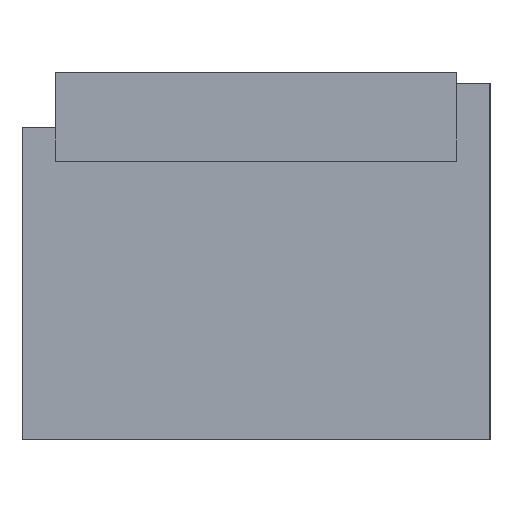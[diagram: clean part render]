
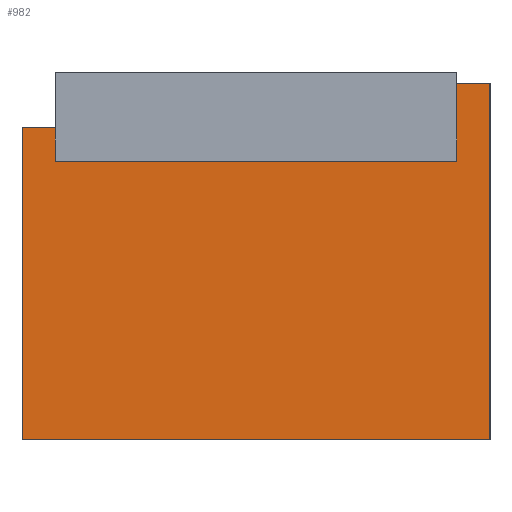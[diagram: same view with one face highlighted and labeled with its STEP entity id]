
A CAD part, left-side view. The second image highlights one B-rep face of the part: STEP entity #982.
In plain terms, the highlighted planar face has unit normal (-1, 0, 0).
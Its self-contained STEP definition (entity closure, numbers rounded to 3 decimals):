
#62 = PLANE('',#63);
#63 = AXIS2_PLACEMENT_3D('',#64,#65,#66);
#64 = CARTESIAN_POINT('',(0.,0.,0.));
#65 = DIRECTION('',(-0.,1.,0.));
#66 = DIRECTION('',(0.,0.,1.));
#90 = PLANE('',#91);
#91 = AXIS2_PLACEMENT_3D('',#92,#93,#94);
#92 = CARTESIAN_POINT('',(0.,-3.,0.));
#93 = DIRECTION('',(0.,0.,1.));
#94 = DIRECTION('',(1.,0.,-0.));
#225 = PLANE('',#226);
#226 = AXIS2_PLACEMENT_3D('',#227,#228,#229);
#227 = CARTESIAN_POINT('',(0.,36.,0.));
#228 = DIRECTION('',(-0.,1.,0.));
#229 = DIRECTION('',(0.,0.,1.));
#323 = VERTEX_POINT('',#324);
#324 = CARTESIAN_POINT('',(0.,0.,0.));
#345 = EDGE_CURVE('',#323,#346,#348,.T.);
#346 = VERTEX_POINT('',#347);
#347 = CARTESIAN_POINT('',(0.,0.,7.));
#348 = SURFACE_CURVE('',#349,(#353,#360),.PCURVE_S1.);
#349 = LINE('',#350,#351);
#350 = CARTESIAN_POINT('',(0.,0.,0.));
#351 = VECTOR('',#352,1.);
#352 = DIRECTION('',(0.,0.,1.));
#353 = PCURVE('',#62,#354);
#354 = DEFINITIONAL_REPRESENTATION('',(#355),#359);
#355 = LINE('',#356,#357);
#356 = CARTESIAN_POINT('',(0.,0.));
#357 = VECTOR('',#358,1.);
#358 = DIRECTION('',(1.,0.));
#359 = ( GEOMETRIC_REPRESENTATION_CONTEXT(2) 
PARAMETRIC_REPRESENTATION_CONTEXT() REPRESENTATION_CONTEXT('2D SPACE',''
  ) );
#360 = PCURVE('',#361,#366);
#361 = PLANE('',#362);
#362 = AXIS2_PLACEMENT_3D('',#363,#364,#365);
#363 = CARTESIAN_POINT('',(0.,36.,0.));
#364 = DIRECTION('',(1.,0.,-0.));
#365 = DIRECTION('',(0.,0.,1.));
#366 = DEFINITIONAL_REPRESENTATION('',(#367),#371);
#367 = LINE('',#368,#369);
#368 = CARTESIAN_POINT('',(0.,36.));
#369 = VECTOR('',#370,1.);
#370 = DIRECTION('',(1.,0.));
#371 = ( GEOMETRIC_REPRESENTATION_CONTEXT(2) 
PARAMETRIC_REPRESENTATION_CONTEXT() REPRESENTATION_CONTEXT('2D SPACE',''
  ) );
#387 = PLANE('',#388);
#388 = AXIS2_PLACEMENT_3D('',#389,#390,#391);
#389 = CARTESIAN_POINT('',(0.,-3.,7.));
#390 = DIRECTION('',(0.,0.,1.));
#391 = DIRECTION('',(1.,0.,-0.));
#529 = VERTEX_POINT('',#530);
#530 = CARTESIAN_POINT('',(0.,36.,0.));
#551 = EDGE_CURVE('',#529,#552,#554,.T.);
#552 = VERTEX_POINT('',#553);
#553 = CARTESIAN_POINT('',(0.,36.,3.));
#554 = SURFACE_CURVE('',#555,(#559,#566),.PCURVE_S1.);
#555 = LINE('',#556,#557);
#556 = CARTESIAN_POINT('',(0.,36.,0.));
#557 = VECTOR('',#558,1.);
#558 = DIRECTION('',(0.,0.,1.));
#559 = PCURVE('',#225,#560);
#560 = DEFINITIONAL_REPRESENTATION('',(#561),#565);
#561 = LINE('',#562,#563);
#562 = CARTESIAN_POINT('',(0.,0.));
#563 = VECTOR('',#564,1.);
#564 = DIRECTION('',(1.,0.));
#565 = ( GEOMETRIC_REPRESENTATION_CONTEXT(2) 
PARAMETRIC_REPRESENTATION_CONTEXT() REPRESENTATION_CONTEXT('2D SPACE',''
  ) );
#566 = PCURVE('',#361,#567);
#567 = DEFINITIONAL_REPRESENTATION('',(#568),#572);
#568 = LINE('',#569,#570);
#569 = CARTESIAN_POINT('',(0.,0.));
#570 = VECTOR('',#571,1.);
#571 = DIRECTION('',(1.,0.));
#572 = ( GEOMETRIC_REPRESENTATION_CONTEXT(2) 
PARAMETRIC_REPRESENTATION_CONTEXT() REPRESENTATION_CONTEXT('2D SPACE',''
  ) );
#588 = PLANE('',#589);
#589 = AXIS2_PLACEMENT_3D('',#590,#591,#592);
#590 = CARTESIAN_POINT('',(0.,36.,3.));
#591 = DIRECTION('',(0.,0.,1.));
#592 = DIRECTION('',(1.,0.,-0.));
#653 = EDGE_CURVE('',#323,#529,#654,.T.);
#654 = SURFACE_CURVE('',#655,(#659,#666),.PCURVE_S1.);
#655 = LINE('',#656,#657);
#656 = CARTESIAN_POINT('',(0.,-3.,0.));
#657 = VECTOR('',#658,1.);
#658 = DIRECTION('',(-0.,1.,0.));
#659 = PCURVE('',#90,#660);
#660 = DEFINITIONAL_REPRESENTATION('',(#661),#665);
#661 = LINE('',#662,#663);
#662 = CARTESIAN_POINT('',(0.,0.));
#663 = VECTOR('',#664,1.);
#664 = DIRECTION('',(0.,1.));
#665 = ( GEOMETRIC_REPRESENTATION_CONTEXT(2) 
PARAMETRIC_REPRESENTATION_CONTEXT() REPRESENTATION_CONTEXT('2D SPACE',''
  ) );
#666 = PCURVE('',#361,#667);
#667 = DEFINITIONAL_REPRESENTATION('',(#668),#672);
#668 = LINE('',#669,#670);
#669 = CARTESIAN_POINT('',(0.,39.));
#670 = VECTOR('',#671,1.);
#671 = DIRECTION('',(0.,-1.));
#672 = ( GEOMETRIC_REPRESENTATION_CONTEXT(2) 
PARAMETRIC_REPRESENTATION_CONTEXT() REPRESENTATION_CONTEXT('2D SPACE',''
  ) );
#909 = EDGE_CURVE('',#910,#346,#912,.T.);
#910 = VERTEX_POINT('',#911);
#911 = CARTESIAN_POINT('',(0.,-3.,7.));
#912 = SURFACE_CURVE('',#913,(#917,#924),.PCURVE_S1.);
#913 = LINE('',#914,#915);
#914 = CARTESIAN_POINT('',(0.,-3.,7.));
#915 = VECTOR('',#916,1.);
#916 = DIRECTION('',(-0.,1.,0.));
#917 = PCURVE('',#387,#918);
#918 = DEFINITIONAL_REPRESENTATION('',(#919),#923);
#919 = LINE('',#920,#921);
#920 = CARTESIAN_POINT('',(0.,0.));
#921 = VECTOR('',#922,1.);
#922 = DIRECTION('',(0.,1.));
#923 = ( GEOMETRIC_REPRESENTATION_CONTEXT(2) 
PARAMETRIC_REPRESENTATION_CONTEXT() REPRESENTATION_CONTEXT('2D SPACE',''
  ) );
#924 = PCURVE('',#361,#925);
#925 = DEFINITIONAL_REPRESENTATION('',(#926),#930);
#926 = LINE('',#927,#928);
#927 = CARTESIAN_POINT('',(7.,39.));
#928 = VECTOR('',#929,1.);
#929 = DIRECTION('',(0.,-1.));
#930 = ( GEOMETRIC_REPRESENTATION_CONTEXT(2) 
PARAMETRIC_REPRESENTATION_CONTEXT() REPRESENTATION_CONTEXT('2D SPACE',''
  ) );
#948 = PLANE('',#949);
#949 = AXIS2_PLACEMENT_3D('',#950,#951,#952);
#950 = CARTESIAN_POINT('',(0.,-3.,0.));
#951 = DIRECTION('',(-0.,1.,0.));
#952 = DIRECTION('',(0.,0.,1.));
#982 = ADVANCED_FACE('',(#983),#361,.F.);
#983 = FACE_BOUND('',#984,.F.);
#984 = EDGE_LOOP('',(#985,#986,#987,#988,#989,#1012,#1040,#1068));
#985 = ORIENTED_EDGE('',*,*,#551,.F.);
#986 = ORIENTED_EDGE('',*,*,#653,.F.);
#987 = ORIENTED_EDGE('',*,*,#345,.T.);
#988 = ORIENTED_EDGE('',*,*,#909,.F.);
#989 = ORIENTED_EDGE('',*,*,#990,.F.);
#990 = EDGE_CURVE('',#991,#910,#993,.T.);
#991 = VERTEX_POINT('',#992);
#992 = CARTESIAN_POINT('',(0.,-3.,-25.));
#993 = SURFACE_CURVE('',#994,(#998,#1005),.PCURVE_S1.);
#994 = LINE('',#995,#996);
#995 = CARTESIAN_POINT('',(0.,-3.,-25.));
#996 = VECTOR('',#997,1.);
#997 = DIRECTION('',(0.,0.,1.));
#998 = PCURVE('',#361,#999);
#999 = DEFINITIONAL_REPRESENTATION('',(#1000),#1004);
#1000 = LINE('',#1001,#1002);
#1001 = CARTESIAN_POINT('',(-25.,39.));
#1002 = VECTOR('',#1003,1.);
#1003 = DIRECTION('',(1.,0.));
#1004 = ( GEOMETRIC_REPRESENTATION_CONTEXT(2) 
PARAMETRIC_REPRESENTATION_CONTEXT() REPRESENTATION_CONTEXT('2D SPACE',''
  ) );
#1005 = PCURVE('',#948,#1006);
#1006 = DEFINITIONAL_REPRESENTATION('',(#1007),#1011);
#1007 = LINE('',#1008,#1009);
#1008 = CARTESIAN_POINT('',(-25.,0.));
#1009 = VECTOR('',#1010,1.);
#1010 = DIRECTION('',(1.,0.));
#1011 = ( GEOMETRIC_REPRESENTATION_CONTEXT(2) 
PARAMETRIC_REPRESENTATION_CONTEXT() REPRESENTATION_CONTEXT('2D SPACE',''
  ) );
#1012 = ORIENTED_EDGE('',*,*,#1013,.T.);
#1013 = EDGE_CURVE('',#991,#1014,#1016,.T.);
#1014 = VERTEX_POINT('',#1015);
#1015 = CARTESIAN_POINT('',(0.,39.,-25.));
#1016 = SURFACE_CURVE('',#1017,(#1021,#1028),.PCURVE_S1.);
#1017 = LINE('',#1018,#1019);
#1018 = CARTESIAN_POINT('',(0.,-3.,-25.));
#1019 = VECTOR('',#1020,1.);
#1020 = DIRECTION('',(-0.,1.,0.));
#1021 = PCURVE('',#361,#1022);
#1022 = DEFINITIONAL_REPRESENTATION('',(#1023),#1027);
#1023 = LINE('',#1024,#1025);
#1024 = CARTESIAN_POINT('',(-25.,39.));
#1025 = VECTOR('',#1026,1.);
#1026 = DIRECTION('',(0.,-1.));
#1027 = ( GEOMETRIC_REPRESENTATION_CONTEXT(2) 
PARAMETRIC_REPRESENTATION_CONTEXT() REPRESENTATION_CONTEXT('2D SPACE',''
  ) );
#1028 = PCURVE('',#1029,#1034);
#1029 = PLANE('',#1030);
#1030 = AXIS2_PLACEMENT_3D('',#1031,#1032,#1033);
#1031 = CARTESIAN_POINT('',(0.,-3.,-25.));
#1032 = DIRECTION('',(0.,0.,1.));
#1033 = DIRECTION('',(1.,0.,-0.));
#1034 = DEFINITIONAL_REPRESENTATION('',(#1035),#1039);
#1035 = LINE('',#1036,#1037);
#1036 = CARTESIAN_POINT('',(0.,0.));
#1037 = VECTOR('',#1038,1.);
#1038 = DIRECTION('',(0.,1.));
#1039 = ( GEOMETRIC_REPRESENTATION_CONTEXT(2) 
PARAMETRIC_REPRESENTATION_CONTEXT() REPRESENTATION_CONTEXT('2D SPACE',''
  ) );
#1040 = ORIENTED_EDGE('',*,*,#1041,.F.);
#1041 = EDGE_CURVE('',#1042,#1014,#1044,.T.);
#1042 = VERTEX_POINT('',#1043);
#1043 = CARTESIAN_POINT('',(0.,39.,3.));
#1044 = SURFACE_CURVE('',#1045,(#1049,#1056),.PCURVE_S1.);
#1045 = LINE('',#1046,#1047);
#1046 = CARTESIAN_POINT('',(0.,39.,3.));
#1047 = VECTOR('',#1048,1.);
#1048 = DIRECTION('',(0.,0.,-1.));
#1049 = PCURVE('',#361,#1050);
#1050 = DEFINITIONAL_REPRESENTATION('',(#1051),#1055);
#1051 = LINE('',#1052,#1053);
#1052 = CARTESIAN_POINT('',(3.,-3.));
#1053 = VECTOR('',#1054,1.);
#1054 = DIRECTION('',(-1.,0.));
#1055 = ( GEOMETRIC_REPRESENTATION_CONTEXT(2) 
PARAMETRIC_REPRESENTATION_CONTEXT() REPRESENTATION_CONTEXT('2D SPACE',''
  ) );
#1056 = PCURVE('',#1057,#1062);
#1057 = PLANE('',#1058);
#1058 = AXIS2_PLACEMENT_3D('',#1059,#1060,#1061);
#1059 = CARTESIAN_POINT('',(0.,39.,0.));
#1060 = DIRECTION('',(-0.,1.,0.));
#1061 = DIRECTION('',(0.,0.,1.));
#1062 = DEFINITIONAL_REPRESENTATION('',(#1063),#1067);
#1063 = LINE('',#1064,#1065);
#1064 = CARTESIAN_POINT('',(3.,0.));
#1065 = VECTOR('',#1066,1.);
#1066 = DIRECTION('',(-1.,0.));
#1067 = ( GEOMETRIC_REPRESENTATION_CONTEXT(2) 
PARAMETRIC_REPRESENTATION_CONTEXT() REPRESENTATION_CONTEXT('2D SPACE',''
  ) );
#1068 = ORIENTED_EDGE('',*,*,#1069,.F.);
#1069 = EDGE_CURVE('',#552,#1042,#1070,.T.);
#1070 = SURFACE_CURVE('',#1071,(#1075,#1082),.PCURVE_S1.);
#1071 = LINE('',#1072,#1073);
#1072 = CARTESIAN_POINT('',(0.,36.,3.));
#1073 = VECTOR('',#1074,1.);
#1074 = DIRECTION('',(-0.,1.,0.));
#1075 = PCURVE('',#361,#1076);
#1076 = DEFINITIONAL_REPRESENTATION('',(#1077),#1081);
#1077 = LINE('',#1078,#1079);
#1078 = CARTESIAN_POINT('',(3.,0.));
#1079 = VECTOR('',#1080,1.);
#1080 = DIRECTION('',(0.,-1.));
#1081 = ( GEOMETRIC_REPRESENTATION_CONTEXT(2) 
PARAMETRIC_REPRESENTATION_CONTEXT() REPRESENTATION_CONTEXT('2D SPACE',''
  ) );
#1082 = PCURVE('',#588,#1083);
#1083 = DEFINITIONAL_REPRESENTATION('',(#1084),#1088);
#1084 = LINE('',#1085,#1086);
#1085 = CARTESIAN_POINT('',(0.,0.));
#1086 = VECTOR('',#1087,1.);
#1087 = DIRECTION('',(0.,1.));
#1088 = ( GEOMETRIC_REPRESENTATION_CONTEXT(2) 
PARAMETRIC_REPRESENTATION_CONTEXT() REPRESENTATION_CONTEXT('2D SPACE',''
  ) );
